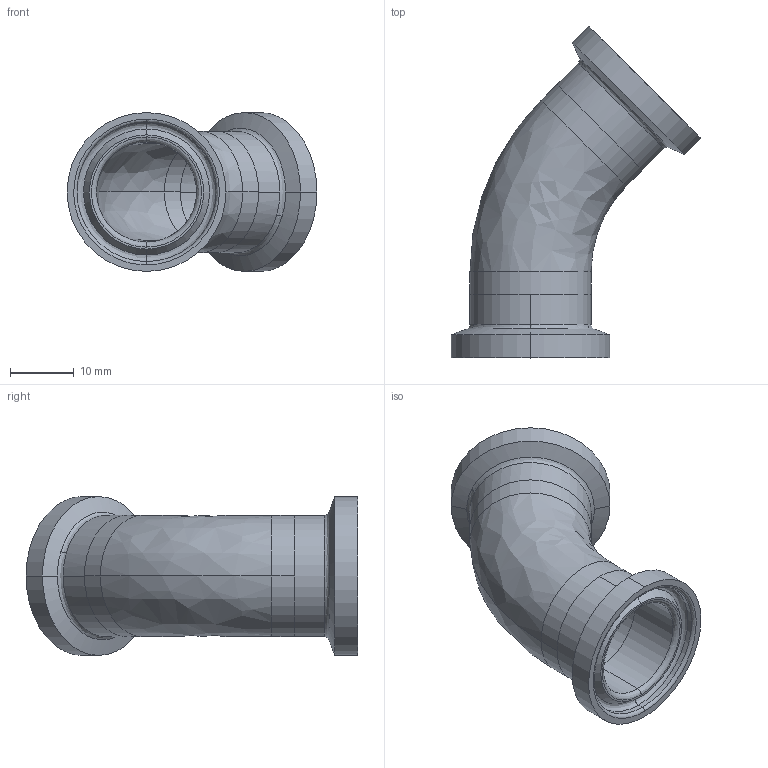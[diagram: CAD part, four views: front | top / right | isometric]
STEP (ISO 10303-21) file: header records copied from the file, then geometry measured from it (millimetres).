
FILE_DESCRIPTION (( 'STEP AP214' ), '1' );
FILE_NAME ('TEG2K6L.75-...STEP', '2016-05-22T07:28:15', ( 'eran' ), ( '' ), 'SwSTEP 2.0', 'SolidWorks 2016', '' );
FILE_SCHEMA (( 'AUTOMOTIVE_DESIGN' ));
Length unit declared in the file: millimetre
Products named in the file (1): TEG2K6L.75-..
Bounding box: 39.29 x 52.2 x 24.99 mm (x, y, z)
Volume: 5635.7 mm3; surface area: 6991.3 mm2
Topology: 3 solids, 3 shells, 60 faces, 132 edges, 80 vertices
Faces by surface type: cylinder 24, bspline 20, plane 8, cone 8
Entity records: 1960 total; most frequent: CARTESIAN_POINT 597, DIRECTION 298, ORIENTED_EDGE 264, AXIS2_PLACEMENT_3D 133, EDGE_CURVE 132, CIRCLE 92, VERTEX_POINT 80, EDGE_LOOP 68
